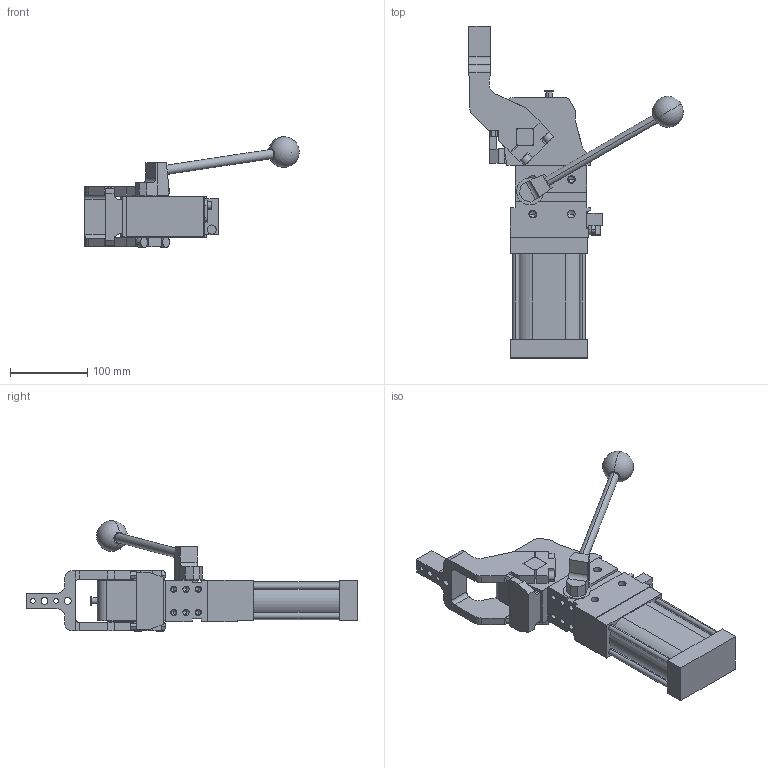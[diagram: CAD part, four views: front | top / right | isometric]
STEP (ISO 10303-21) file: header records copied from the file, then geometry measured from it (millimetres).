
FILE_DESCRIPTION (( 'STEP AP214' ), '1' );
FILE_NAME ('cplm63lath3ci1g_107.STEP', '2023-01-26T15:10:38', ( '' ), ( '' ), 'SwSTEP 2.0', 'SolidWorks 2022', '' );
FILE_SCHEMA (( 'AUTOMOTIVE_DESIGN' ));
Length unit declared in the file: millimetre
Products named in the file (5): meccanica_cplm_63_tassello_esterno; comando_manuale_cplm_63; blocchetto_VEP_0; leva_h3c_cpl63t; cplm63lath3ci1g_107
Assembly tree (4 placements, depth 2):
  cplm63lath3ci1g_107
    meccanica_cplm_63_tassello_esterno
    blocchetto_VEP_0
    leva_h3c_cpl63t
    comando_manuale_cplm_63
Bounding box: 278.06 x 430.5 x 143.5 mm (x, y, z)
Volume: 1910435.1 mm3; surface area: 217055.4 mm2
Topology: 4 solids, 4 shells, 467 faces, 1233 edges, 769 vertices
Faces by surface type: plane 252, cylinder 163, cone 50, sphere 2
Entity records: 15690 total; most frequent: CARTESIAN_POINT 2504, DIRECTION 2484, ORIENTED_EDGE 2364, EDGE_CURVE 1182, AXIS2_PLACEMENT_3D 836, VECTOR 812, LINE 812, VERTEX_POINT 766
